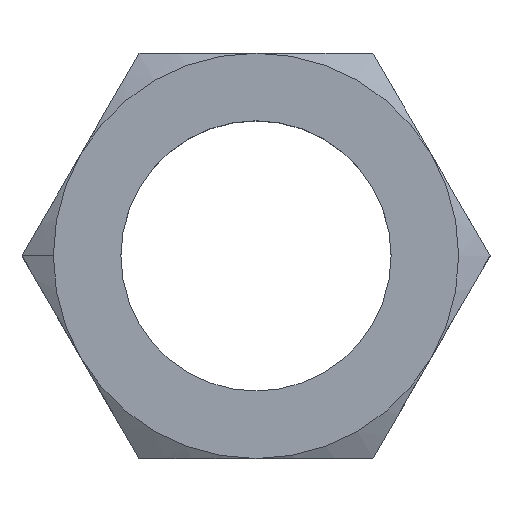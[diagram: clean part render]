
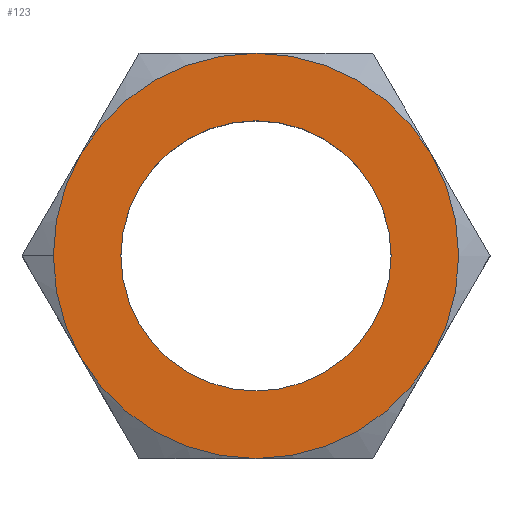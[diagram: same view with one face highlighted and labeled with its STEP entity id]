
A CAD part, top view. The second image highlights one B-rep face of the part: STEP entity #123.
In plain terms, the highlighted planar face has unit normal (0, 0, 1).
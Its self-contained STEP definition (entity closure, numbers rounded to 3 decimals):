
#8 = EDGE_CURVE ( 'NONE', #64, #44, #296, .T. ) ;
#9 = ORIENTED_EDGE ( 'NONE', *, *, #17, .T. ) ;
#10 = ORIENTED_EDGE ( 'NONE', *, *, #8, .T. ) ;
#11 = ORIENTED_EDGE ( 'NONE', *, *, #68, .F. ) ;
#12 = ORIENTED_EDGE ( 'NONE', *, *, #14, .F. ) ;
#13 = EDGE_CURVE ( 'NONE', #44, #131, #149, .T. ) ;
#14 = EDGE_CURVE ( 'NONE', #70, #69, #144, .T. ) ;
#15 = ORIENTED_EDGE ( 'NONE', *, *, #168, .T. ) ;
#16 = EDGE_LOOP ( 'NONE', ( #9, #10, #23, #15, #169, #170, #172 ) ) ;
#17 = EDGE_CURVE ( 'NONE', #198, #64, #139, .T. ) ;
#23 = ORIENTED_EDGE ( 'NONE', *, *, #13, .T. ) ;
#44 = VERTEX_POINT ( 'NONE', #368 ) ;
#64 = VERTEX_POINT ( 'NONE', #506 ) ;
#68 = EDGE_CURVE ( 'NONE', #69, #70, #585, .T. ) ;
#69 = VERTEX_POINT ( 'NONE', #574 ) ;
#70 = VERTEX_POINT ( 'NONE', #573 ) ;
#75 = VERTEX_POINT ( 'NONE', #560 ) ;
#109 = EDGE_CURVE ( 'NONE', #110, #111, #499, .T. ) ;
#110 = VERTEX_POINT ( 'NONE', #494 ) ;
#111 = VERTEX_POINT ( 'NONE', #493 ) ;
#123 = ADVANCED_FACE ( 'NONE', ( #482, #481 ), #478, .T. ) ;
#124 = EDGE_LOOP ( 'NONE', ( #11, #12 ) ) ;
#131 = VERTEX_POINT ( 'NONE', #535 ) ;
#135 = DIRECTION ( 'NONE',  ( 1., 0., 0. ) ) ;
#136 = DIRECTION ( 'NONE',  ( 0., 0., 1. ) ) ;
#137 = CARTESIAN_POINT ( 'NONE',  ( 0., 0., 5. ) ) ;
#138 = AXIS2_PLACEMENT_3D ( 'NONE', #137, #136, #135 ) ;
#139 = CIRCLE ( 'NONE', #138, 15. ) ;
#140 = DIRECTION ( 'NONE',  ( 1., 0., 0. ) ) ;
#141 = DIRECTION ( 'NONE',  ( 0., 0., 1. ) ) ;
#142 = CARTESIAN_POINT ( 'NONE',  ( 0., 0., 5. ) ) ;
#143 = AXIS2_PLACEMENT_3D ( 'NONE', #142, #141, #140 ) ;
#144 = CIRCLE ( 'NONE', #143, 10. ) ;
#145 = DIRECTION ( 'NONE',  ( 1., 0., 0. ) ) ;
#146 = DIRECTION ( 'NONE',  ( 0., 0., 1. ) ) ;
#147 = CARTESIAN_POINT ( 'NONE',  ( 0., 0., 5. ) ) ;
#148 = AXIS2_PLACEMENT_3D ( 'NONE', #147, #146, #145 ) ;
#149 = CIRCLE ( 'NONE', #148, 15. ) ;
#150 = DIRECTION ( 'NONE',  ( 1., 0., 0. ) ) ;
#151 = DIRECTION ( 'NONE',  ( 0., 0., 1. ) ) ;
#152 = CARTESIAN_POINT ( 'NONE',  ( 0., 0., 5. ) ) ;
#153 = AXIS2_PLACEMENT_3D ( 'NONE', #152, #151, #150 ) ;
#168 = EDGE_CURVE ( 'NONE', #131, #110, #425, .T. ) ;
#169 = ORIENTED_EDGE ( 'NONE', *, *, #109, .T. ) ;
#170 = ORIENTED_EDGE ( 'NONE', *, *, #171, .T. ) ;
#171 = EDGE_CURVE ( 'NONE', #111, #75, #420, .T. ) ;
#172 = ORIENTED_EDGE ( 'NONE', *, *, #173, .T. ) ;
#173 = EDGE_CURVE ( 'NONE', #75, #198, #414, .T. ) ;
#198 = VERTEX_POINT ( 'NONE', #656 ) ;
#296 = CIRCLE ( 'NONE', #153, 15. ) ;
#368 = CARTESIAN_POINT ( 'NONE',  ( 0., 15., 5. ) ) ;
#410 = DIRECTION ( 'NONE',  ( 1., 0., 0. ) ) ;
#411 = DIRECTION ( 'NONE',  ( 0., 0., 1. ) ) ;
#412 = CARTESIAN_POINT ( 'NONE',  ( 0., 0., 5. ) ) ;
#413 = AXIS2_PLACEMENT_3D ( 'NONE', #412, #411, #410 ) ;
#414 = CIRCLE ( 'NONE', #413, 15. ) ;
#416 = DIRECTION ( 'NONE',  ( 1., 0., 0. ) ) ;
#417 = DIRECTION ( 'NONE',  ( 0., 0., 1. ) ) ;
#418 = CARTESIAN_POINT ( 'NONE',  ( 0., 0., 5. ) ) ;
#419 = AXIS2_PLACEMENT_3D ( 'NONE', #418, #417, #416 ) ;
#420 = CIRCLE ( 'NONE', #419, 15. ) ;
#421 = DIRECTION ( 'NONE',  ( 1., 0., 0. ) ) ;
#422 = DIRECTION ( 'NONE',  ( 0., 0., 1. ) ) ;
#423 = CARTESIAN_POINT ( 'NONE',  ( 0., 0., 5. ) ) ;
#424 = AXIS2_PLACEMENT_3D ( 'NONE', #423, #422, #421 ) ;
#425 = CIRCLE ( 'NONE', #424, 15. ) ;
#478 = PLANE ( 'NONE',  #553 ) ;
#481 = FACE_OUTER_BOUND ( 'NONE', #16, .T. ) ;
#482 = FACE_BOUND ( 'NONE', #124, .T. ) ;
#493 = CARTESIAN_POINT ( 'NONE',  ( -12.99, -7.5, 5. ) ) ;
#494 = CARTESIAN_POINT ( 'NONE',  ( -15., 0., 5. ) ) ;
#495 = DIRECTION ( 'NONE',  ( 1., 0., 0. ) ) ;
#496 = DIRECTION ( 'NONE',  ( 0., 0., 1. ) ) ;
#497 = CARTESIAN_POINT ( 'NONE',  ( 0., 0., 5. ) ) ;
#498 = AXIS2_PLACEMENT_3D ( 'NONE', #497, #496, #495 ) ;
#499 = CIRCLE ( 'NONE', #498, 15. ) ;
#506 = CARTESIAN_POINT ( 'NONE',  ( 12.99, 7.5, 5. ) ) ;
#535 = CARTESIAN_POINT ( 'NONE',  ( -12.99, 7.5, 5. ) ) ;
#550 = DIRECTION ( 'NONE',  ( 1., 0., 0. ) ) ;
#551 = DIRECTION ( 'NONE',  ( 0., 0., 1. ) ) ;
#552 = CARTESIAN_POINT ( 'NONE',  ( 8.66, 15., 5. ) ) ;
#553 = AXIS2_PLACEMENT_3D ( 'NONE', #552, #551, #550 ) ;
#560 = CARTESIAN_POINT ( 'NONE',  ( 0., -15., 5. ) ) ;
#573 = CARTESIAN_POINT ( 'NONE',  ( 10., 0., 5. ) ) ;
#574 = CARTESIAN_POINT ( 'NONE',  ( -10., 0., 5. ) ) ;
#575 = DIRECTION ( 'NONE',  ( 1., 0., 0. ) ) ;
#576 = DIRECTION ( 'NONE',  ( 0., 0., 1. ) ) ;
#577 = CARTESIAN_POINT ( 'NONE',  ( 0., 0., 5. ) ) ;
#578 = AXIS2_PLACEMENT_3D ( 'NONE', #577, #576, #575 ) ;
#585 = CIRCLE ( 'NONE', #578, 10. ) ;
#656 = CARTESIAN_POINT ( 'NONE',  ( 12.99, -7.5, 5. ) ) ;
